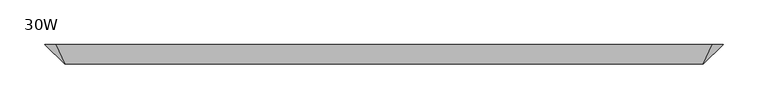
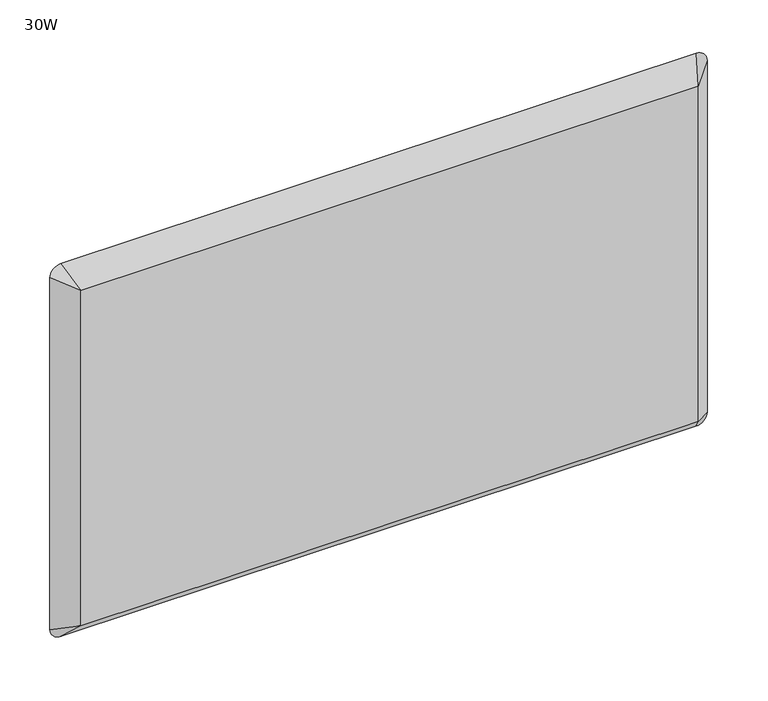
"""IFC4 building model written with IfcOpenShell, lengths in millimetres: furniture geometry, Steelcase - Answer Solution - Tackboards for Use with Wall Channels : 30W."""

from ifc_helpers import new_model, si_unit, frame, origin, place, context, project, spatial, circle_curve, source, transform, mapped, element, save
from ifc_brep_helpers import plane_surface, spline_surface, advanced_brep


def furniture_30w_40e7200a(model_context):
    return source(origin(), model_context, "Body", "AdvancedBrep", [
        advanced_brep(
        [(777.24, -58.549664, 1158.24), (60.96, -58.549664, 1158.24), (60.96, -58.549664, 746.76), (777.24, -58.549664, 746.76), (787.4, -36.19754, 1181.1), (800.1, -36.19754, 1168.4), (800.1, -36.19754, 736.6), (787.4, -36.19754, 723.9), (50.8, -36.19754, 723.9), (38.1, -36.19754, 736.6), (38.1, -36.19754, 1168.4), (50.8, -36.19754, 1181.1)],
        [
            (0, 1),
            (1, 2),
            (2, 3),
            (3, 0),
            (4, 5, circle_curve(frame((787.4, -36.19754, 1168.4), z_axis=(0.0, 1.0, 0.0), x_axis=(-1.0, 0.0, 0.0)), 12.7)),
            (5, 6),
            (6, 7, circle_curve(frame((787.4, -36.19754, 736.6), z_axis=(0.0, 1.0, 0.0), x_axis=(-1.0, 0.0, 0.0)), 12.7)),
            (7, 8),
            (8, 9, circle_curve(frame((50.8, -36.19754, 736.6), z_axis=(0.0, 1.0, 0.0), x_axis=(-1.0, 0.0, 0.0)), 12.7)),
            (9, 10),
            (10, 11, circle_curve(frame((50.8, -36.19754, 1168.4), z_axis=(0.0, 1.0, 0.0), x_axis=(-1.0, 0.0, 0.0)), 12.7)),
            (11, 4),
            (4, 0),
            (0, 5),
            (3, 6),
            (3, 7),
            (2, 8),
            (2, 9),
            (1, 10),
            (1, 11),
        ],
        [
            plane_surface(frame((419.1, -58.549664, 952.5), z_axis=(0.0, -1.0, 0.0), x_axis=(1.0, 0.0, 0.0))),
            plane_surface(frame((419.1, -36.19754, 952.5), z_axis=(0.0, 1.0, 0.0), x_axis=(1.0, 0.0, 0.0))),
            spline_surface(2, 1, [[(800.1, -36.19754, 1168.4), (777.24, -58.549664, 1158.24)], [(800.1000000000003, -36.19754, 1181.1000000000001), (777.24, -58.549664, 1158.24)], [(787.4, -36.19754, 1181.1), (777.24, -58.549664, 1158.24)]], [3, 3], [2, 2], [0.0, 1.0], [0.0, 1.0], weights=[[1.0, 1.0], [0.7071067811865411, 0.7071067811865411], [1.0, 1.0]]),
            plane_surface(frame((800.1, -36.19754, 952.5), z_axis=(0.6991196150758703, -0.7150047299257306, 0.0), x_axis=(0.0, 0.0, 1.0))),
            spline_surface(2, 1, [[(787.4, -36.19754, 723.9), (777.24, -58.549664, 746.76)], [(800.1, -36.19754, 723.9), (777.24, -58.549664, 746.76)], [(800.1, -36.19754, 736.6), (777.24, -58.549664, 746.76)]], [3, 3], [2, 2], [0.0, 1.0], [0.0, 1.0], weights=[[1.0, 1.0], [0.7071067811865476, 0.7071067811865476], [1.0, 1.0]]),
            plane_surface(frame((419.1, -36.19754, 723.9), z_axis=(0.0, -0.7150047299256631, -0.6991196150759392), x_axis=(1.0, 0.0, 0.0))),
            spline_surface(2, 1, [[(38.1, -36.19754, 736.6), (60.96, -58.549664, 746.76)], [(38.10000000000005, -36.19754, 723.9), (60.96, -58.549664, 746.76)], [(50.8, -36.19754, 723.9), (60.96, -58.549664, 746.76)]], [3, 3], [2, 2], [0.0, 1.0], [0.0, 1.0], weights=[[1.0, 1.0], [0.7071067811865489, 0.7071067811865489], [1.0, 1.0]]),
            plane_surface(frame((38.1, -36.19754, 952.5), z_axis=(-0.699119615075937, -0.7150047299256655, 0.0), x_axis=(0.0, 0.0, -1.0))),
            spline_surface(2, 1, [[(50.8, -36.19754, 1181.1), (60.96, -58.549664, 1158.24)], [(38.10000000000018, -36.19754, 1181.0999999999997), (60.96, -58.549664, 1158.24)], [(38.1, -36.19754, 1168.4), (60.96, -58.549664, 1158.24)]], [3, 3], [2, 2], [0.0, 1.0], [0.0, 1.0], weights=[[1.0, 1.0], [0.7071067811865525, 0.7071067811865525], [1.0, 1.0]]),
            plane_surface(frame((419.1, -36.19754, 1181.1), z_axis=(0.0, -0.7150047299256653, 0.6991196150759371), x_axis=(-1.0, 0.0, 0.0))),
        ],
        [
            (0, [[1, 2, 3, 4]]),
            (1, [[5, 6, 7, 8, 9, 10, 11, 12]]),
            (2, [[-5, 13, 14]]),
            (3, [[-6, -14, -4, 15]]),
            (4, [[-7, -15, 16]]),
            (5, [[-8, -16, -3, 17]]),
            (6, [[-9, -17, 18]]),
            (7, [[-10, -18, -2, 19]]),
            (8, [[-11, -19, 20]]),
            (9, [[-12, -20, -1, -13]]),
        ],
    ),
    ])


if __name__ == "__main__":
    model = new_model("IFC4")
    model_context = context("Model", 3, world=origin())
    ifc_project = project(units=[si_unit("LENGTHUNIT", "METRE", prefix="MILLI")], contexts=[model_context])
    site = spatial("IfcSite", under=ifc_project)
    building = spatial("IfcBuilding", under=site)
    placement = place(None, origin())
    furniture_30w_shape = furniture_30w_40e7200a(model_context)
    element("IfcFurniture", 1, ObjectType="Steelcase - Answer Solution - Tackboards for Use with Wall Channels : 30W", at=placement, inside=building, context=model_context, shape_type="MappedRepresentation", body=[
        mapped(furniture_30w_shape, transform((0.0, 0.0, 0.0), x_axis=(1.0, 0.0, 0.0), y_axis=(0.0, 1.0, 0.0), z_axis=(0.0, 0.0, 1.0))),
    ])
    save(model, "model.ifc")
